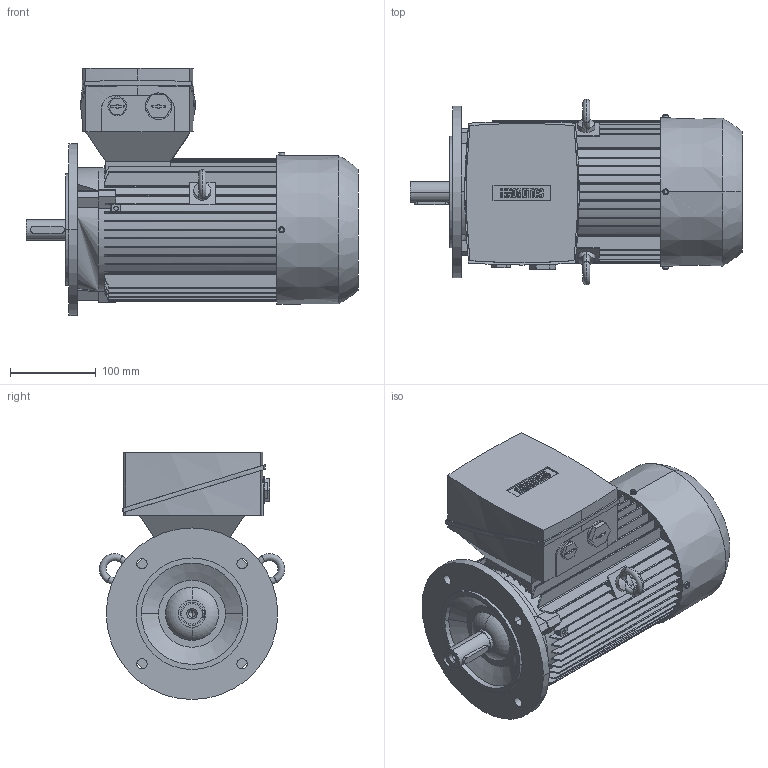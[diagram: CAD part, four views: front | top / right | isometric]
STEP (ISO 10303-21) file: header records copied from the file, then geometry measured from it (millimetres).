
FILE_DESCRIPTION(('STEP AP214'),'1');
FILE_NAME('cctmp_74951040-F9B7-4A6E-845A-C93017C41354_2026_04_15_12_37_35_0977_6824..stp','2026-04-15T10:37:36',('KiM GmbH'),('CADClick - www.CADClick.com'),'Spatial InterOp 3D',' ','unknown authorization');
FILE_SCHEMA(('AUTOMOTIVE_DESIGN'));
Length unit declared in the file: millimetre
Products named in the file (1): 2026_04_15_12_37_35_0977
Bounding box: 387 x 216.39 x 288 mm (x, y, z)
Volume: 8358595.5 mm3; surface area: 547739.4 mm2
Topology: 1 solids, 1 shells, 744 faces, 2089 edges, 1369 vertices
Faces by surface type: plane 453, cylinder 209, torus 60, cone 18, sphere 4
Entity records: 31673 total; most frequent: CARTESIAN_POINT 6187, ORIENTED_EDGE 4154, DIRECTION 4054, EDGE_CURVE 2075, VERTEX_POINT 1369, AXIS2_PLACEMENT_3D 1363, LINE 1328, VECTOR 1328
